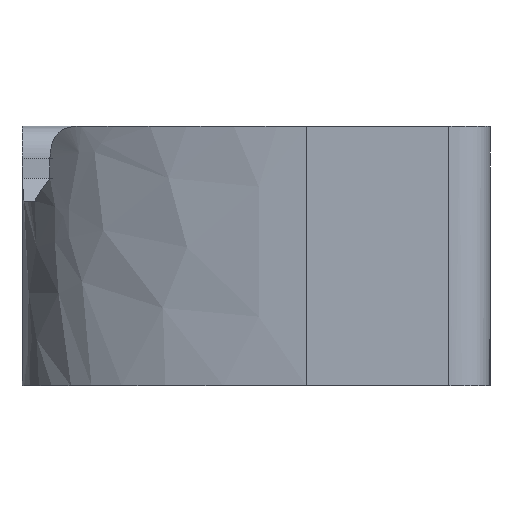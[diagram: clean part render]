
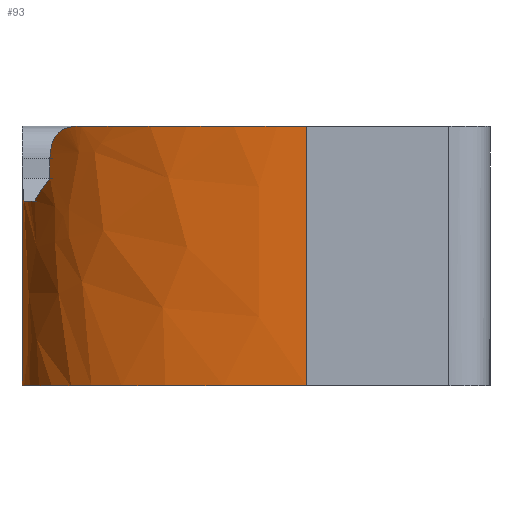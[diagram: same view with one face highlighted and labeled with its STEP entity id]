
A CAD part, left-side view. The second image highlights one B-rep face of the part: STEP entity #93.
In plain terms, the highlighted free-form (B-spline) face has degree [3, 1] with [4, 2] control points.
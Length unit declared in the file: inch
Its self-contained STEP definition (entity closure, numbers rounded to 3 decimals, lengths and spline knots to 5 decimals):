
#93=ADVANCED_FACE('',(#196),#197,.F.);
#196=FACE_OUTER_BOUND('',#484,.T.);
#197=B_SPLINE_SURFACE_WITH_KNOTS('',3,1,((#485,#486),(#487,#488),(#489,#490),(#491,#492)),.UNSPECIFIED.,.F.,.F.,.F.,(4,4),(2,2),(-1.0,-0.0),(0.0,0.59043),.UNSPECIFIED.);
#484=EDGE_LOOP('',(#869,#870,#871,#872,#873,#874,#875,#876,#877));
#485=CARTESIAN_POINT('',(0.22427,0.56242,0.07786));
#486=CARTESIAN_POINT('',(0.22427,0.56242,-0.51257));
#487=CARTESIAN_POINT('',(0.02391,0.56242,0.07786));
#488=CARTESIAN_POINT('',(0.02391,0.56242,-0.51257));
#489=CARTESIAN_POINT('',(-0.00001,0.27241,0.07786));
#490=CARTESIAN_POINT('',(-0.00001,0.27241,-0.51257));
#491=CARTESIAN_POINT('',(-0.00001,0.21857,0.07786));
#492=CARTESIAN_POINT('',(-0.00001,0.21857,-0.51257));
#869=ORIENTED_EDGE('',*,*,#1102,.F.);
#870=ORIENTED_EDGE('',*,*,#1103,.F.);
#871=ORIENTED_EDGE('',*,*,#1104,.F.);
#872=ORIENTED_EDGE('',*,*,#1105,.F.);
#873=ORIENTED_EDGE('',*,*,#1106,.F.);
#874=ORIENTED_EDGE('',*,*,#1107,.F.);
#875=ORIENTED_EDGE('',*,*,#1082,.F.);
#876=ORIENTED_EDGE('',*,*,#1108,.F.);
#877=ORIENTED_EDGE('',*,*,#1109,.T.);
#1082=EDGE_CURVE('',#1252,#1253,#1254,.T.);
#1102=EDGE_CURVE('',#1278,#1279,#1280,.T.);
#1103=EDGE_CURVE('',#1281,#1278,#1282,.T.);
#1104=EDGE_CURVE('',#1283,#1281,#1284,.T.);
#1105=EDGE_CURVE('',#1285,#1283,#1286,.T.);
#1106=EDGE_CURVE('',#1287,#1285,#1288,.T.);
#1107=EDGE_CURVE('',#1253,#1287,#1289,.T.);
#1108=EDGE_CURVE('',#1290,#1252,#1291,.T.);
#1109=EDGE_CURVE('',#1290,#1279,#1292,.T.);
#1252=VERTEX_POINT('',#1602);
#1253=VERTEX_POINT('',#1603);
#1254=B_SPLINE_CURVE_WITH_KNOTS('',3,(#1604,#1605,#1606,#1607,#1608,#1609),.UNSPECIFIED.,.F.,.F.,(4,2,4),(0.0,0.07132,0.13769),.UNSPECIFIED.);
#1278=VERTEX_POINT('',#1672);
#1279=VERTEX_POINT('',#1673);
#1280=B_SPLINE_CURVE_WITH_KNOTS('',3,(#1674,#1675,#1676,#1677),.UNSPECIFIED.,.F.,.F.,(4,4),(0.0,1.0),.UNSPECIFIED.);
#1281=VERTEX_POINT('',#1678);
#1282=B_SPLINE_CURVE_WITH_KNOTS('',3,(#1679,#1680,#1681,#1682,#1683,#1684),.UNSPECIFIED.,.F.,.F.,(4,2,4),(0.0,0.29522,0.41231),.UNSPECIFIED.);
#1283=VERTEX_POINT('',#1685);
#1284=B_SPLINE_CURVE_WITH_KNOTS('',3,(#1686,#1687,#1688,#1689,#1690,#1691,#1692,#1693),.UNSPECIFIED.,.F.,.F.,(4,2,2,4),(0.0,0.06653,0.15884,0.41539),.UNSPECIFIED.);
#1285=VERTEX_POINT('',#1694);
#1286=B_SPLINE_CURVE_WITH_KNOTS('',3,(#1695,#1696,#1697,#1698,#1699,#1700,#1701,#1702,#1703,#1704,#1705,#1706),.UNSPECIFIED.,.F.,.F.,(4,2,2,2,2,4),(0.0,0.01277,0.02338,0.03513,0.04832,0.06405),.UNSPECIFIED.);
#1287=VERTEX_POINT('',#1707);
#1288=B_SPLINE_CURVE_WITH_KNOTS('',3,(#1708,#1709,#1710,#1711),.UNSPECIFIED.,.F.,.F.,(4,4),(0.0,0.12322),.UNSPECIFIED.);
#1289=B_SPLINE_CURVE_WITH_KNOTS('',3,(#1712,#1713,#1714,#1715,#1716,#1717),.UNSPECIFIED.,.F.,.F.,(4,2,4),(0.0,0.08161,0.16032),.UNSPECIFIED.);
#1290=VERTEX_POINT('',#1718);
#1291=B_SPLINE_CURVE_WITH_KNOTS('',3,(#1719,#1720,#1721,#1722),.UNSPECIFIED.,.F.,.F.,(4,4),(0.0,0.09273),.UNSPECIFIED.);
#1292=LINE('',#1723,#1724);
#1602=CARTESIAN_POINT('',(0.19321,0.55994,-0.09006));
#1603=CARTESIAN_POINT('',(0.15112,0.54729,-0.09006));
#1604=CARTESIAN_POINT('',(0.22427,0.56242,-0.09006));
#1605=CARTESIAN_POINT('',(0.2005,0.56242,-0.09006));
#1606=CARTESIAN_POINT('',(0.17738,0.55834,-0.09006));
#1607=CARTESIAN_POINT('',(0.13505,0.54064,-0.09006));
#1608=CARTESIAN_POINT('',(0.11701,0.52827,-0.09006));
#1609=CARTESIAN_POINT('',(0.10112,0.51288,-0.09006));
#1672=CARTESIAN_POINT('',(0.0,0.22073,-0.31231));
#1673=CARTESIAN_POINT('',(0.22427,0.56242,-0.31231));
#1674=CARTESIAN_POINT('',(-0.00001,0.21857,-0.31231));
#1675=CARTESIAN_POINT('',(-0.00001,0.27241,-0.31231));
#1676=CARTESIAN_POINT('',(0.02391,0.56242,-0.31231));
#1677=CARTESIAN_POINT('',(0.22427,0.56242,-0.31231));
#1678=CARTESIAN_POINT('',(0.0,0.22073,0.));
#1679=CARTESIAN_POINT('',(0.,0.22073,0.05));
#1680=CARTESIAN_POINT('',(0.,0.22073,-0.04841));
#1681=CARTESIAN_POINT('',(0.,0.22073,-0.14681));
#1682=CARTESIAN_POINT('',(0.,0.22073,-0.28425));
#1683=CARTESIAN_POINT('',(0.,0.22073,-0.32328));
#1684=CARTESIAN_POINT('',(0.,0.22073,-0.36231));
#1685=CARTESIAN_POINT('',(0.08165,0.49123,0.));
#1686=CARTESIAN_POINT('',(0.13165,0.53687,0.));
#1687=CARTESIAN_POINT('',(0.11283,0.52515,0.));
#1688=CARTESIAN_POINT('',(0.09667,0.50999,0.));
#1689=CARTESIAN_POINT('',(0.06357,0.46867,0.));
#1690=CARTESIAN_POINT('',(0.04881,0.44058,0.));
#1691=CARTESIAN_POINT('',(0.00606,0.33243,0.));
#1692=CARTESIAN_POINT('',(-0.00001,0.24574,0.));
#1693=CARTESIAN_POINT('',(-0.00001,0.21857,0.));
#1694=CARTESIAN_POINT('',(0.11987,0.52885,-0.03944));
#1695=CARTESIAN_POINT('',(0.11987,0.52885,-0.03944));
#1696=CARTESIAN_POINT('',(0.11987,0.52885,-0.03519));
#1697=CARTESIAN_POINT('',(0.11937,0.52848,-0.03031));
#1698=CARTESIAN_POINT('',(0.11688,0.52658,-0.02151));
#1699=CARTESIAN_POINT('',(0.11524,0.52531,-0.01783));
#1700=CARTESIAN_POINT('',(0.11071,0.5216,-0.01106));
#1701=CARTESIAN_POINT('',(0.10787,0.51918,-0.00831));
#1702=CARTESIAN_POINT('',(0.10129,0.51312,-0.00384));
#1703=CARTESIAN_POINT('',(0.0976,0.50948,-0.00238));
#1704=CARTESIAN_POINT('',(0.0898,0.50114,-0.00036));
#1705=CARTESIAN_POINT('',(0.08557,0.49621,0.));
#1706=CARTESIAN_POINT('',(0.08165,0.49123,0.));
#1707=CARTESIAN_POINT('',(0.11987,0.52885,-0.06266));
#1708=CARTESIAN_POINT('',(0.11987,0.52885,-0.11266));
#1709=CARTESIAN_POINT('',(0.11987,0.52885,-0.07159));
#1710=CARTESIAN_POINT('',(0.11987,0.52885,-0.03052));
#1711=CARTESIAN_POINT('',(0.11987,0.52885,0.01056));
#1712=CARTESIAN_POINT('',(0.18872,0.55915,-0.12302));
#1713=CARTESIAN_POINT('',(0.16847,0.55527,-0.10527));
#1714=CARTESIAN_POINT('',(0.14893,0.54783,-0.08813));
#1715=CARTESIAN_POINT('',(0.11266,0.52484,-0.05634));
#1716=CARTESIAN_POINT('',(0.0966,0.51004,-0.04226));
#1717=CARTESIAN_POINT('',(0.08228,0.49202,-0.0297));
#1718=CARTESIAN_POINT('',(0.22427,0.56242,-0.0632));
#1719=CARTESIAN_POINT('',(0.22427,0.56242,-0.0632));
#1720=CARTESIAN_POINT('',(0.20089,0.56242,-0.08342));
#1721=CARTESIAN_POINT('',(0.17768,0.55847,-0.10349));
#1722=CARTESIAN_POINT('',(0.15539,0.54914,-0.12276));
#1723=CARTESIAN_POINT('',(0.22427,0.56242,0.07786));
#1724=VECTOR('',#1844,1.0);
#1844=DIRECTION('',(0.0,0.0,-1.0));
